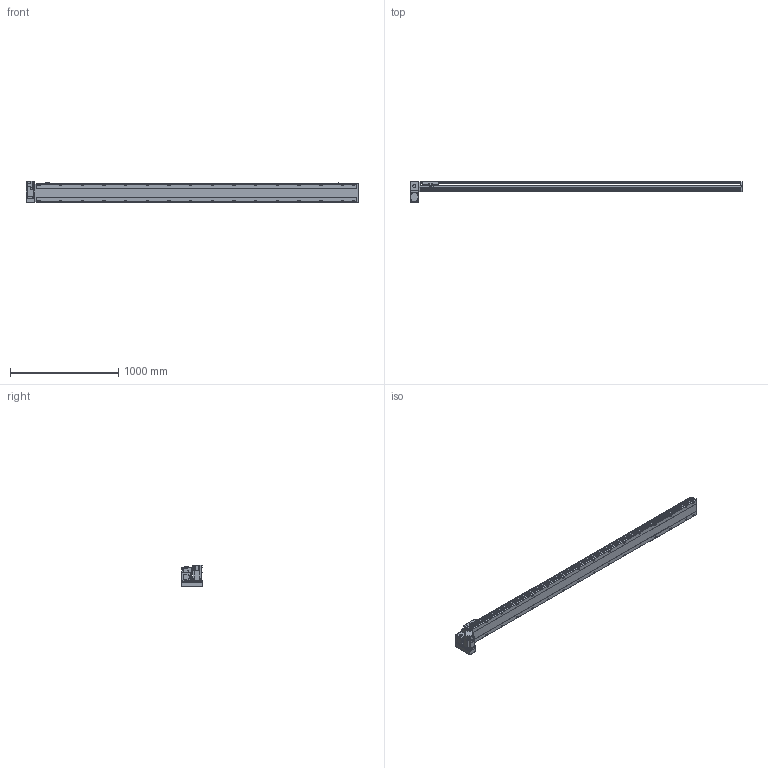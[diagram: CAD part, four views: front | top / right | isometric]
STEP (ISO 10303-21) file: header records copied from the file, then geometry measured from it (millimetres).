
FILE_DESCRIPTION( ( 'STEP AP214' ), '1' );
FILE_NAME( 'x:/temp/worker_4/temp/exporttempdir_2248_364_apXtD/format_0/PBS170-P40-S2700-LD-T75-C1-N(0).stp', '2022-06-07T07:56:36', ( 'License CC BY-ND 4.0' ), ( 'CADENAS' ), ' ', 'PARTsolutions', ' ' );
FILE_SCHEMA( ( 'AUTOMOTIVE_DESIGN { 1 0 10303 214 1 1 1 1 }' ) );
Length unit declared in the file: millimetre
Products named in the file (7): PBS170-P40-S2700-LD-T75-C1-N(0); _PBS170-S2700()_body; _PBS170T-LD_motors; _T75-p1; _PBS170_sliser; _PBS170_plant; _PBS170_sensor
Assembly tree (8 placements, depth 2):
  PBS170-P40-S2700-LD-T75-C1-N(0)
    _PBS170-S2700()_body
    _PBS170T-LD_motors
    _T75-p1
    _PBS170_sliser
    _PBS170_plant
    _PBS170_sensor  x3
Bounding box: 3063 x 201 x 197.3 mm (x, y, z)
Volume: 23102353.1 mm3; surface area: 2902026.5 mm2
Topology: 8 solids, 8 shells, 1210 faces, 3195 edges, 2082 vertices
Faces by surface type: plane 735, cylinder 403, cone 62, sphere 8, torus 2
Full cylindrical faces by diameter (mm): 3.242 x4, 4 x2, 4.4 x4, 4.5 x6, 4.917 x4, 6 x9, 6.647 x40, 7 x2, 7.5 x4, 8 x8, 8.5 x32, 10 x4, 10.5 x32, 11 x2, 30 x2, 40 x1, 70 x1
Entity records: 44876 total; most frequent: CARTESIAN_POINT 7565, DIRECTION 5860, ORIENTED_EDGE 5508, EDGE_CURVE 2754, AXIS2_PLACEMENT_3D 2077, VERTEX_POINT 1922, LINE 1706, VECTOR 1706
